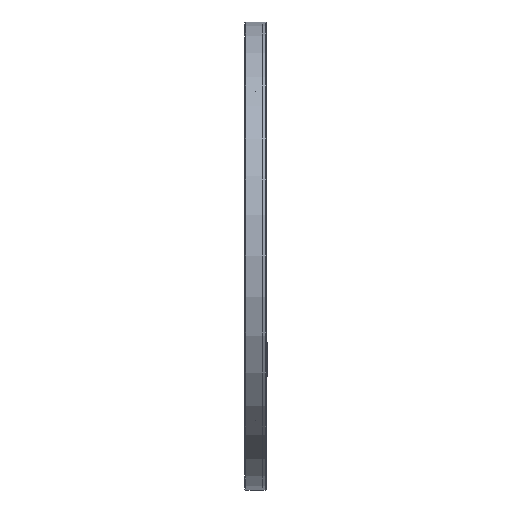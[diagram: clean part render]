
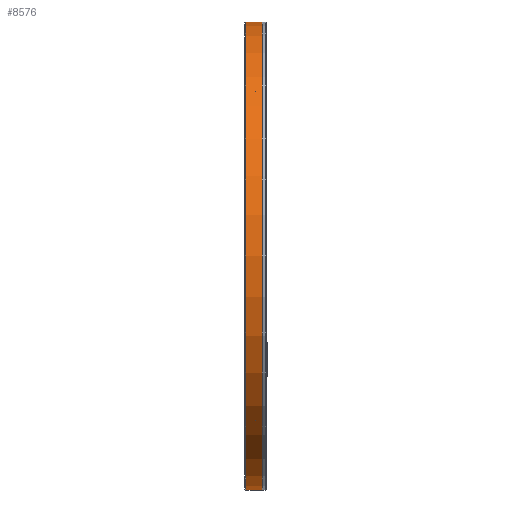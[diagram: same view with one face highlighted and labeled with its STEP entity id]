
A CAD part, left-side view. The second image highlights one B-rep face of the part: STEP entity #8576.
In plain terms, the highlighted cylindrical face has radius 120 mm (diameter 240 mm), a partial arc.
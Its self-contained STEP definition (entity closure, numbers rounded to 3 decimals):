
#144 = ORIENTED_EDGE ( 'NONE', *, *, #5541, .T. ) ;
#225 = LINE ( 'NONE', #4912, #6543 ) ;
#720 = VERTEX_POINT ( 'NONE', #5362 ) ;
#762 = ORIENTED_EDGE ( 'NONE', *, *, #6971, .F. ) ;
#863 = CARTESIAN_POINT ( 'NONE',  ( 0., 0., -120. ) ) ;
#1086 = ORIENTED_EDGE ( 'NONE', *, *, #1388, .T. ) ;
#1237 = AXIS2_PLACEMENT_3D ( 'NONE', #7585, #2005, #3430 ) ;
#1388 = EDGE_CURVE ( 'NONE', #1660, #8367, #225, .T. ) ;
#1445 = CYLINDRICAL_SURFACE ( 'NONE', #1237, 120. ) ;
#1503 = CARTESIAN_POINT ( 'NONE',  ( 0., 0., 0. ) ) ;
#1639 = CARTESIAN_POINT ( 'NONE',  ( 0., -8.5, 120. ) ) ;
#1660 = VERTEX_POINT ( 'NONE', #1639 ) ;
#1677 = CARTESIAN_POINT ( 'NONE',  ( 0., -8.5, -120. ) ) ;
#1950 = VECTOR ( 'NONE', #2914, 1000. ) ;
#2005 = DIRECTION ( 'NONE',  ( 0., 1., 0. ) ) ;
#2044 = DIRECTION ( 'NONE',  ( 0., 1., 0. ) ) ;
#2186 = DIRECTION ( 'NONE',  ( 0., 0., 1. ) ) ;
#2650 = CIRCLE ( 'NONE', #4405, 120. ) ;
#2914 = DIRECTION ( 'NONE',  ( 0., 1., 0. ) ) ;
#3271 = DIRECTION ( 'NONE',  ( 0., 0., 1. ) ) ;
#3430 = DIRECTION ( 'NONE',  ( 0., 0., 1. ) ) ;
#4405 = AXIS2_PLACEMENT_3D ( 'NONE', #6862, #8263, #3271 ) ;
#4912 = CARTESIAN_POINT ( 'NONE',  ( 0., 0., 120. ) ) ;
#5362 = CARTESIAN_POINT ( 'NONE',  ( 0., 0., -120. ) ) ;
#5541 = EDGE_CURVE ( 'NONE', #7550, #1660, #2650, .T. ) ;
#6134 = CARTESIAN_POINT ( 'NONE',  ( 0., 0., 120. ) ) ;
#6369 = DIRECTION ( 'NONE',  ( 0., 1., 0. ) ) ;
#6543 = VECTOR ( 'NONE', #2044, 1000. ) ;
#6589 = ORIENTED_EDGE ( 'NONE', *, *, #7421, .F. ) ;
#6712 = CIRCLE ( 'NONE', #7459, 120. ) ;
#6862 = CARTESIAN_POINT ( 'NONE',  ( 0., -8.5, 0. ) ) ;
#6971 = EDGE_CURVE ( 'NONE', #7550, #720, #8277, .T. ) ;
#7421 = EDGE_CURVE ( 'NONE', #720, #8367, #6712, .T. ) ;
#7459 = AXIS2_PLACEMENT_3D ( 'NONE', #1503, #6369, #2186 ) ;
#7520 = EDGE_LOOP ( 'NONE', ( #762, #144, #1086, #6589 ) ) ;
#7550 = VERTEX_POINT ( 'NONE', #1677 ) ;
#7585 = CARTESIAN_POINT ( 'NONE',  ( 0., 0., 0. ) ) ;
#8263 = DIRECTION ( 'NONE',  ( 0., 1., 0. ) ) ;
#8277 = LINE ( 'NONE', #863, #1950 ) ;
#8367 = VERTEX_POINT ( 'NONE', #6134 ) ;
#8550 = FACE_OUTER_BOUND ( 'NONE', #7520, .T. ) ;
#8576 = ADVANCED_FACE ( 'NONE', ( #8550 ), #1445, .T. ) ;
